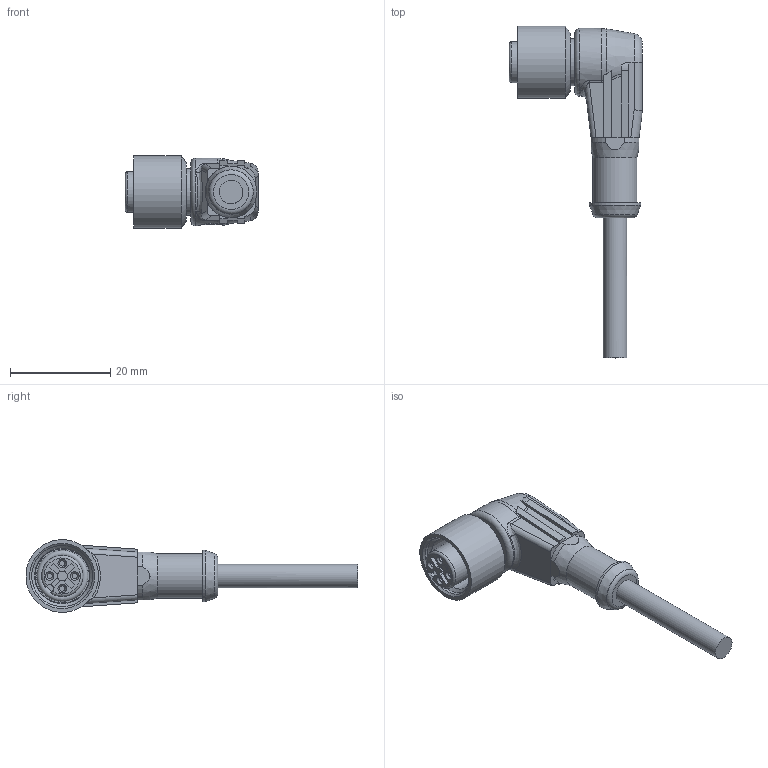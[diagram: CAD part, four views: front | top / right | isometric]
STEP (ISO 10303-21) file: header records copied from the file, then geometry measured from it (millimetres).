
FILE_DESCRIPTION( ( 'Unknown' ), '1' );
FILE_NAME( 'C:/Users/txr10011/Documents/1_in Bearbeitung/151016/Hüllmodelle/RKWT_LED_P_4-225_xxM.stp', 'Unknown', ( 'Unknown' ), ( 'Unknown' ), 'PSStep 17.0.49', 'Unknown', ' ' );
FILE_SCHEMA( ( 'AUTOMOTIVE_DESIGN { 1 0 10303 214 1 1 1 1 }' ) );
Length unit declared in the file: millimetre
Products named in the file (1): STL 225
Bounding box: 26.7 x 66.18 x 14.44 mm (x, y, z)
Volume: 5797.1 mm3; surface area: 3387.2 mm2
Topology: 1 solids, 1 shells, 181 faces, 469 edges, 308 vertices
Faces by surface type: plane 108, cylinder 35, cone 12, extrusion 11, bspline 9, torus 6
Full cylindrical faces by diameter (mm): 1.1 x4, 2 x1, 4.7 x1, 8.8 x1, 9.4 x1, 10.3 x1, 10.8 x1, 11.05 x1, 12.2 x1, 13.5 x1, 14.5 x1
Entity records: 9685 total; most frequent: CARTESIAN_POINT 4078, ORIENTED_EDGE 846, DIRECTION 799, EDGE_CURVE 423, VERTEX_POINT 293, AXIS2_PLACEMENT_3D 272, VECTOR 255, LINE 244
